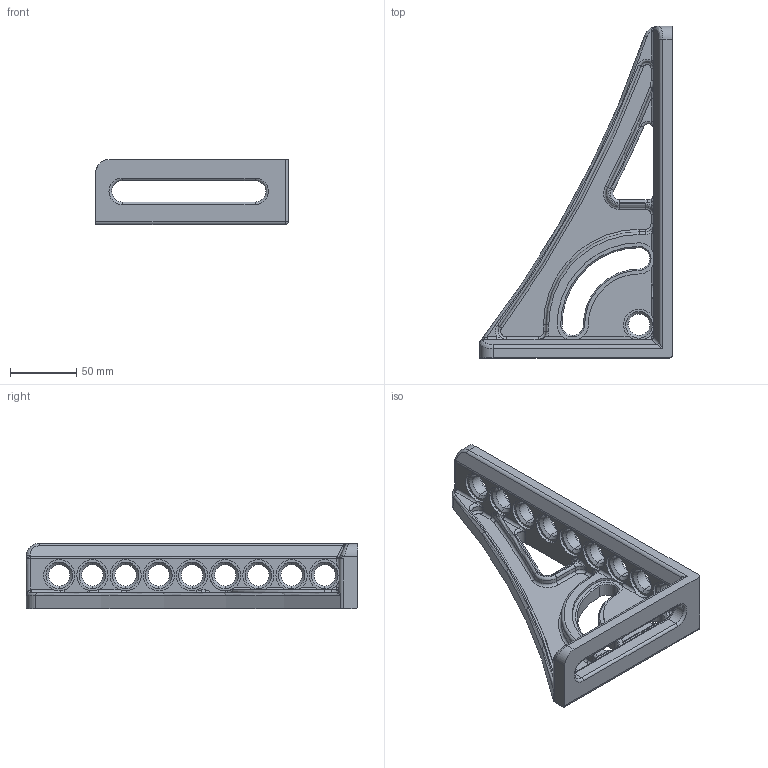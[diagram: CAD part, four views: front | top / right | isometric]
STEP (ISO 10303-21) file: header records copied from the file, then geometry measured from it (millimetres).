
FILE_DESCRIPTION (( 'STEP AP203' ), '1' );
FILE_NAME ('160161.STEP', '2020-07-07T14:35:14', ( '' ), ( '' ), 'SwSTEP 2.0', 'SolidWorks 2019', '' );
FILE_SCHEMA (( 'CONFIG_CONTROL_DESIGN' ));
Length unit declared in the file: millimetre
Products named in the file (2): 160161; 160163.X Drehwinkel 250x50 rechts_Foto^160161_163_Anschlag- und Spannwinkel 250 G mit Drehwinkel_links
Assembly tree (1 placements, depth 2):
  160161
    160163.X Drehwinkel 250x50 rechts_Foto^160161_163_Anschlag- und Spannwinkel 250 G mit Drehwinkel_links
Bounding box: 145 x 250 x 49 mm (x, y, z)
Volume: 293309.1 mm3; surface area: 77553.4 mm2
Topology: 1 solids, 1 shells, 254 faces, 630 edges, 365 vertices
Faces by surface type: cylinder 112, torus 51, plane 41, cone 29, bspline 17, sphere 4
Entity records: 8468 total; most frequent: CARTESIAN_POINT 2252, DIRECTION 1369, ORIENTED_EDGE 1232, EDGE_CURVE 616, AXIS2_PLACEMENT_3D 578, VERTEX_POINT 365, CIRCLE 337, EDGE_LOOP 281
